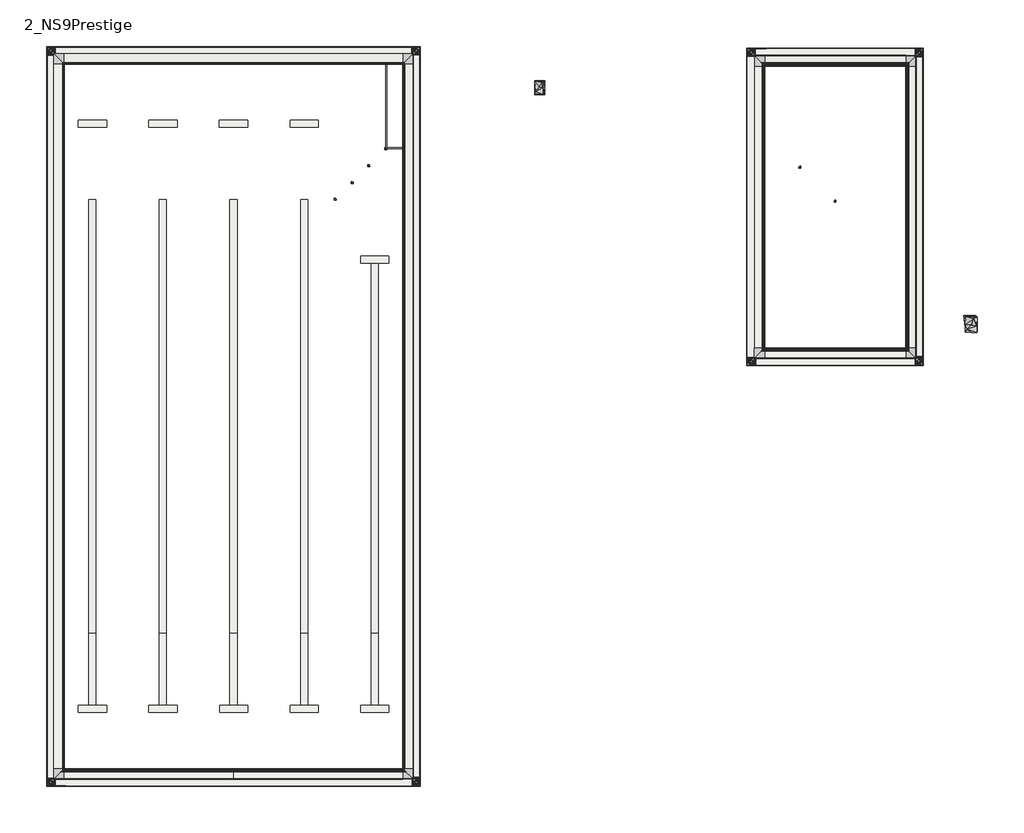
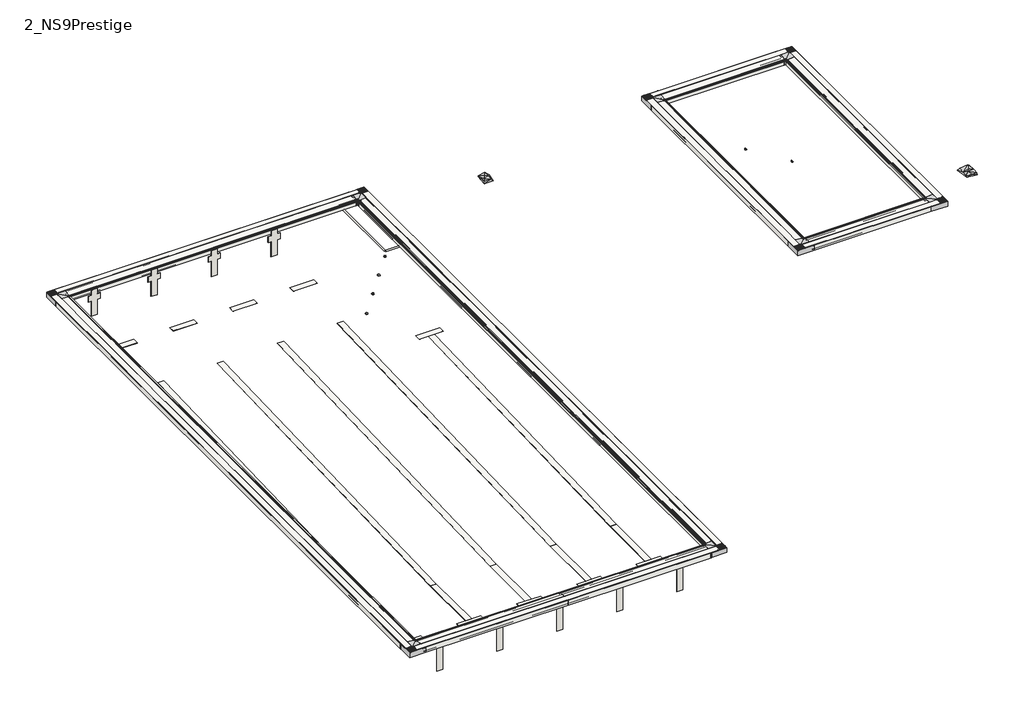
# One storey: 41 slabs, 38 proxies, 2 geographic elements, 2 walls.
"""IFC4 building model written with IfcOpenShell, lengths in millimetres."""

from ifc_helpers import new_model, si_unit, frame, origin, place, context, project, spatial, polyline, outline, extrude, transform, mapped, element, save
from components import generic_models_6b054df1, generic_models_ccc31185, generic_models_78dfe14b, generic_models_e9a23e22, pieza_r5i_aqua_blanco_anti_slip_38d46c03, pieza_r5i_aqua_blanco_anti_slip_8b49d6c0, rejilla_245_e2_blanco_63b6c073, enscape_assetdefinition_throw_03_enscape_assetdefinition_2d4c1df4, enscape_assetdefinition_throw_enscape_assetdefinition_throw_fa2a812f, slab_ae715e0f, slab_47887b1a, slab_0164f3d5, slab_a36d192f, slab_547aef0b, slab_949a5b68, slab_f1eb9f66, slab_3115b348, slab_cda4063a, slab_1b43aec6, bloque_rs_911_a8a97c0f, bloque_rs_911_215bbb40, bloque_rs_911_f4706125, bloque_rs_911_57cfa048, bloque_rs_911_2212c182, bloque_rs_911_3a2023d3, bloque_rs_911_71783845, bloque_rs_911_7a120cf1, bloque_rs_911_55d283f2, pieza_r49_aqua_blanco_anti_slip_135d777d, pieza_r49_aqua_blanco_anti_slip_3c1201e6, pieza_r49_aqua_blanco_anti_slip_20b8c3bb, pieza_r49_aqua_blanco_anti_slip_6e17b325, pieza_r49_aqua_blanco_anti_slip_990b0548, pieza_r49_aqua_blanco_anti_slip_dcf15e24, pieza_r49_aqua_blanco_anti_slip_00d05688, pieza_r49_aqua_blanco_anti_slip_cb5288bd, pieza_r49_aqua_blanco_anti_slip_4dea29a0, rejilla_245_r2_blanco_be0b8a0c, rejilla_245_r2_blanco_33e8b5a1, rejilla_245_r2_blanco_007aff3b, rejilla_245_r2_blanco_432fa08c, rejilla_245_r2_blanco_9034627d

model = new_model("IFC4")

# Units and contexts
model_context = context("Model", 3, world=origin())
ifc_project = project(units=[si_unit("LENGTHUNIT", "METRE", prefix="MILLI")], contexts=[model_context])

# Site, building, storey
site = spatial("IfcSite", under=ifc_project)
building = spatial("IfcBuilding", under=site)
storey = spatial("IfcBuildingStorey", under=building, Name="2_NS9Prestige", Elevation=-245.0)

# Proxies
placement = place(None, origin())
generic_models_shape = generic_models_6b054df1(model_context)
element("IfcBuildingElementProxy", 1, Name="ROSA GRES_RS 911 Esquina Ángulo Interior : Bloque RS 911_Esquina Ángulo Interior", ObjectType="ROSA GRES_RS 911 Esquina Ángulo Interior : Bloque RS 911_Esquina Ángulo Interior", at=placement, inside=storey, context=model_context, shape_type="MappedRepresentation", body=[
    mapped(generic_models_shape, transform((-6320.9163923, 24837.1630021, -228.3), x_axis=(0.0, 1.0, 0.0), y_axis=(-1.0, 0.0, 0.0), z_axis=(0.0, 0.0, 1.0))),
])
element("IfcBuildingElementProxy", 2, Name="ROSA GRES_RS 911 Esquina Ángulo Interior : Bloque RS 911_Esquina Ángulo Interior", ObjectType="ROSA GRES_RS 911 Esquina Ángulo Interior : Bloque RS 911_Esquina Ángulo Interior", at=placement, inside=storey, context=model_context, shape_type="MappedRepresentation", body=[
    mapped(generic_models_shape, transform((5679.7677212, 24836.0564347, -228.3), x_axis=(1.0, 0.0, 0.0), y_axis=(0.0, 1.0, 0.0), z_axis=(0.0, 0.0, 1.0))),
])
element("IfcBuildingElementProxy", 3, Name="ROSA GRES_RS 911 Esquina Ángulo Interior : Bloque RS 911_Esquina Ángulo Interior", ObjectType="ROSA GRES_RS 911 Esquina Ángulo Interior : Bloque RS 911_Esquina Ángulo Interior", at=placement, inside=storey, context=model_context, shape_type="MappedRepresentation", body=[
    mapped(generic_models_shape, transform((5680.8018347, -150.6276788, -228.3), x_axis=(0.0, -1.0, 0.0), y_axis=(1.0, 0.0, 0.0), z_axis=(0.0, 0.0, 1.0))),
])
element("IfcBuildingElementProxy", 4, Name="ROSA GRES_RS 911 Esquina Ángulo Interior : Bloque RS 911_Esquina Ángulo Interior", ObjectType="ROSA GRES_RS 911 Esquina Ángulo Interior : Bloque RS 911_Esquina Ángulo Interior", at=placement, inside=storey, context=model_context, shape_type="MappedRepresentation", body=[
    mapped(generic_models_shape, transform((-6320.9526193, -160.5914519, -228.3), x_axis=(-1.0, 0.0, 0.0), y_axis=(0.0, -1.0, 0.0), z_axis=(0.0, 0.0, 1.0))),
])
element("IfcBuildingElementProxy", 5, Name="ROSA GRES_RS 911 Esquina Ángulo Interior : Bloque RS 911_Esquina Ángulo Interior", ObjectType="ROSA GRES_RS 911 Esquina Ángulo Interior : Bloque RS 911_Esquina Ángulo Interior", at=placement, inside=storey, context=model_context, shape_type="MappedRepresentation", body=[
    mapped(generic_models_shape, transform((18513.4747739, 14772.4469485, -228.3), x_axis=(-1.0, 0.0, 0.0), y_axis=(0.0, -1.0, 0.0), z_axis=(0.0, 0.0, 1.0))),
])
element("IfcBuildingElementProxy", 6, Name="ROSA GRES_RS 911 Esquina Ángulo Interior : Bloque RS 911_Esquina Ángulo Interior", ObjectType="ROSA GRES_RS 911 Esquina Ángulo Interior : Bloque RS 911_Esquina Ángulo Interior", at=placement, inside=storey, context=model_context, shape_type="MappedRepresentation", body=[
    mapped(generic_models_shape, transform((23513.3542278, 14772.4107216, -228.3), x_axis=(0.0, -1.0, 0.0), y_axis=(1.0, 0.0, 0.0), z_axis=(0.0, 0.0, 1.0))),
])
element("IfcBuildingElementProxy", 7, Name="ROSA GRES_RS 911 Esquina Ángulo Interior : Bloque RS 911_Esquina Ángulo Interior", ObjectType="ROSA GRES_RS 911 Esquina Ángulo Interior : Bloque RS 911_Esquina Ángulo Interior", at=placement, inside=storey, context=model_context, shape_type="MappedRepresentation", body=[
    mapped(generic_models_shape, transform((23514.6404548, 24774.1651756, -228.3), x_axis=(1.0, 0.0, 0.0), y_axis=(0.0, 1.0, 0.0), z_axis=(0.0, 0.0, 1.0))),
])
element("IfcBuildingElementProxy", 8, Name="ROSA GRES_RS 911 Esquina Ángulo Interior : Bloque RS 911_Esquina Ángulo Interior", ObjectType="ROSA GRES_RS 911 Esquina Ángulo Interior : Bloque RS 911_Esquina Ángulo Interior", at=placement, inside=storey, context=model_context, shape_type="MappedRepresentation", body=[
    mapped(generic_models_shape, transform((18508.5110008, 24781.7014025, -228.3), x_axis=(0.0, 1.0, 0.0), y_axis=(-1.0, 0.0, 0.0), z_axis=(0.0, 0.0, 1.0))),
])
generic_models_2_shape = generic_models_ccc31185(model_context)
element("IfcBuildingElementProxy", 9, Name="ROSA GRES_089 : Pieza 089_Aqua_Plomo_Anti-Slip", ObjectType="ROSA GRES_089 : Pieza 089_Aqua_Plomo_Anti-Slip", at=placement, inside=storey, context=model_context, shape_type="MappedRepresentation", body=[
    mapped(generic_models_2_shape, transform((5680.716378, 24836.3926616, -228.3977837), x_axis=(1.0, 0.0, 0.0), y_axis=(0.0, 1.0, 0.0), z_axis=(0.0, 0.0, 1.0))),
])
element("IfcBuildingElementProxy", 10, Name="ROSA GRES_089 : Pieza 089_Aqua_Plomo_Anti-Slip", ObjectType="ROSA GRES_089 : Pieza 089_Aqua_Plomo_Anti-Slip", at=placement, inside=storey, context=model_context, shape_type="MappedRepresentation", body=[
    mapped(generic_models_2_shape, transform((-6320.0809356, -154.1282468, -228.3977837), x_axis=(-1.0, 0.0, 0.0), y_axis=(0.0, -1.0, 0.0), z_axis=(0.0, 0.0, 1.0))),
])
element("IfcBuildingElementProxy", 11, Name="ROSA GRES_089 : Pieza 089_Aqua_Plomo_Anti-Slip", ObjectType="ROSA GRES_089 : Pieza 089_Aqua_Plomo_Anti-Slip", at=placement, inside=storey, context=model_context, shape_type="MappedRepresentation", body=[
    mapped(generic_models_2_shape, transform((23514.382378, 24772.6426616, -228.3977837), x_axis=(1.0, 0.0, 0.0), y_axis=(0.0, 1.0, 0.0), z_axis=(0.0, 0.0, 1.0))),
])
element("IfcBuildingElementProxy", 12, Name="ROSA GRES_089 : Pieza 089_Aqua_Plomo_Anti-Slip", ObjectType="ROSA GRES_089 : Pieza 089_Aqua_Plomo_Anti-Slip", at=placement, inside=storey, context=model_context, shape_type="MappedRepresentation", body=[
    mapped(generic_models_2_shape, transform((18514.5288157, 14773.5112935, -228.3977837), x_axis=(-1.0, 0.0, 0.0), y_axis=(0.0, -1.0, 0.0), z_axis=(0.0, 0.0, 1.0))),
])
generic_models_3_shape = generic_models_78dfe14b(model_context)
element("IfcBuildingElementProxy", 13, Name="ROSA GRES_089 : Pieza 089_Aqua_Plomo_Anti-Slip", ObjectType="ROSA GRES_089 : Pieza 089_Aqua_Plomo_Anti-Slip", at=placement, inside=storey, context=model_context, shape_type="MappedRepresentation", body=[
    mapped(generic_models_3_shape, transform((-6320.0809356, 24836.3926616, -228.3977837), x_axis=(-1.0, 0.0, 0.0), y_axis=(0.0, -1.0, 0.0), z_axis=(0.0, 0.0, 1.0))),
])
element("IfcBuildingElementProxy", 14, Name="ROSA GRES_089 : Pieza 089_Aqua_Plomo_Anti-Slip", ObjectType="ROSA GRES_089 : Pieza 089_Aqua_Plomo_Anti-Slip", at=placement, inside=storey, context=model_context, shape_type="MappedRepresentation", body=[
    mapped(generic_models_3_shape, transform((5680.716378, -154.1282468, -228.3977837), x_axis=(1.0, 0.0, 0.0), y_axis=(0.0, 1.0, 0.0), z_axis=(0.0, 0.0, 1.0))),
])
element("IfcBuildingElementProxy", 15, Name="ROSA GRES_089 : Pieza 089_Aqua_Plomo_Anti-Slip", ObjectType="ROSA GRES_089 : Pieza 089_Aqua_Plomo_Anti-Slip", at=placement, inside=storey, context=model_context, shape_type="MappedRepresentation", body=[
    mapped(generic_models_3_shape, transform((18514.5288157, 24772.6426616, -228.3977837), x_axis=(-1.0, 0.0, 0.0), y_axis=(0.0, -1.0, 0.0), z_axis=(0.0, 0.0, 1.0))),
])
element("IfcBuildingElementProxy", 16, Name="ROSA GRES_089 : Pieza 089_Aqua_Plomo_Anti-Slip", ObjectType="ROSA GRES_089 : Pieza 089_Aqua_Plomo_Anti-Slip", at=placement, inside=storey, context=model_context, shape_type="MappedRepresentation", body=[
    mapped(generic_models_3_shape, transform((23514.382378, 14773.5112935, -228.3977837), x_axis=(1.0, 0.0, 0.0), y_axis=(0.0, 1.0, 0.0), z_axis=(0.0, 0.0, 1.0))),
])
generic_models_4_shape = generic_models_e9a23e22(model_context)
element("IfcBuildingElementProxy", 17, Name="ROSA GRES_116 : Pieza 116_Aqua_Plomo_Liso", ObjectType="ROSA GRES_116 : Pieza 116_Aqua_Plomo_Liso", at=placement, inside=storey, context=model_context, shape_type="MappedRepresentation", body=[
    mapped(generic_models_4_shape, transform((3320.0677212, 20076.3926616, -1259.95975), x_axis=(0.0, -1.0, 0.0), y_axis=(1.0, 0.0, 0.0), z_axis=(0.0, 0.0, 1.0))),
])
element("IfcBuildingElementProxy", 18, Name="ROSA GRES_116 : Pieza 116_Aqua_Plomo_Liso", ObjectType="ROSA GRES_116 : Pieza 116_Aqua_Plomo_Liso", at=placement, inside=storey, context=model_context, shape_type="MappedRepresentation", body=[
    mapped(generic_models_4_shape, transform((4520.0677212, 21275.5274858, -710.0), x_axis=(0.0, -1.0, 0.0), y_axis=(1.0, 0.0, 0.0), z_axis=(0.0, 0.0, 1.0))),
])
element("IfcBuildingElementProxy", 19, Name="ROSA GRES_116 : Pieza 116_Aqua_Plomo_Liso", ObjectType="ROSA GRES_116 : Pieza 116_Aqua_Plomo_Liso", at=placement, inside=storey, context=model_context, shape_type="MappedRepresentation", body=[
    mapped(generic_models_4_shape, transform((3921.2009319, 20676.3926616, -960.0), x_axis=(0.0, -1.0, 0.0), y_axis=(1.0, 0.0, 0.0), z_axis=(0.0, 0.0, 1.0))),
])
element("IfcBuildingElementProxy", 20, Name="ROSA GRES_116 : Pieza 116_Aqua_Plomo_Liso", ObjectType="ROSA GRES_116 : Pieza 116_Aqua_Plomo_Liso", at=placement, inside=storey, context=model_context, shape_type="MappedRepresentation", body=[
    mapped(generic_models_4_shape, transform((5120.1927212, 21876.290177, -460.0), x_axis=(0.0, -1.0, 0.0), y_axis=(1.0, 0.0, 0.0), z_axis=(0.0, 0.0, 1.0))),
])
element("IfcBuildingElementProxy", 21, Name="ROSA GRES_116 : Pieza 116_Aqua_Plomo_Liso", ObjectType="ROSA GRES_116 : Pieza 116_Aqua_Plomo_Liso", at=placement, inside=storey, context=model_context, shape_type="MappedRepresentation", body=[
    mapped(generic_models_4_shape, transform((19723.8701143, 21213.4310621, -460.0), x_axis=(1.0, 0.0, 0.0), y_axis=(0.0, 1.0, 0.0), z_axis=(0.0, 0.0, 1.0))),
])
element("IfcBuildingElementProxy", 22, Name="ROSA GRES_116 : Pieza 116_Aqua_Plomo_Liso", ObjectType="ROSA GRES_116 : Pieza 116_Aqua_Plomo_Liso", at=placement, inside=storey, context=model_context, shape_type="MappedRepresentation", body=[
    mapped(generic_models_4_shape, transform((20973.8701143, 20013.4310621, -710.0), x_axis=(1.0, 0.0, 0.0), y_axis=(0.0, 1.0, 0.0), z_axis=(0.0, 0.0, 1.0))),
])
pieza_r5i_aqua_blanco_anti_slip_shape = pieza_r5i_aqua_blanco_anti_slip_38d46c03(model_context)
element("IfcBuildingElementProxy", 23, Name="ROSA GRES_R5I : Pieza R5I_Aqua_Blanco_Anti-Slip", ObjectType="ROSA GRES_R5I : Pieza R5I_Aqua_Blanco_Anti-Slip", at=placement, inside=storey, context=model_context, shape_type="MappedRepresentation", body=[
    mapped(pieza_r5i_aqua_blanco_anti_slip_shape, transform((-6319.9322788, 24836.3926616, -228.3), x_axis=(0.0, 1.0, 0.0), y_axis=(-1.0, 0.0, 0.0), z_axis=(0.0, 0.0, 1.0))),
])
element("IfcBuildingElementProxy", 24, Name="ROSA GRES_R5I : Pieza R5I_Aqua_Blanco_Anti-Slip", ObjectType="ROSA GRES_R5I : Pieza R5I_Aqua_Blanco_Anti-Slip", at=placement, inside=storey, context=model_context, shape_type="MappedRepresentation", body=[
    mapped(pieza_r5i_aqua_blanco_anti_slip_shape, transform((5681.8177212, -154.6549008, -228.3), x_axis=(0.0, -1.0, 0.0), y_axis=(1.0, 0.0, 0.0), z_axis=(0.0, 0.0, 1.0))),
])
element("IfcBuildingElementProxy", 25, Name="ROSA GRES_R5I : Pieza R5I_Aqua_Blanco_Anti-Slip", ObjectType="ROSA GRES_R5I : Pieza R5I_Aqua_Blanco_Anti-Slip", at=placement, inside=storey, context=model_context, shape_type="MappedRepresentation", body=[
    mapped(pieza_r5i_aqua_blanco_anti_slip_shape, transform((18513.2594725, 24773.8926616, -228.3), x_axis=(0.0, 1.0, 0.0), y_axis=(-1.0, 0.0, 0.0), z_axis=(0.0, 0.0, 1.0))),
])
element("IfcBuildingElementProxy", 26, Name="ROSA GRES_R5I : Pieza R5I_Aqua_Blanco_Anti-Slip", ObjectType="ROSA GRES_R5I : Pieza R5I_Aqua_Blanco_Anti-Slip", at=placement, inside=storey, context=model_context, shape_type="MappedRepresentation", body=[
    mapped(pieza_r5i_aqua_blanco_anti_slip_shape, transform((23514.4807561, 14772.9694625, -228.3), x_axis=(0.0, -1.0, 0.0), y_axis=(1.0, 0.0, 0.0), z_axis=(0.0, 0.0, 1.0))),
])
pieza_r5i_aqua_blanco_anti_slip_2_shape = pieza_r5i_aqua_blanco_anti_slip_8b49d6c0(model_context)
element("IfcBuildingElementProxy", 27, Name="ROSA GRES_R5I : Pieza R5I_Aqua_Blanco_Anti-Slip", ObjectType="ROSA GRES_R5I : Pieza R5I_Aqua_Blanco_Anti-Slip", at=placement, inside=storey, context=model_context, shape_type="MappedRepresentation", body=[
    mapped(pieza_r5i_aqua_blanco_anti_slip_2_shape, transform((5681.8177212, 24836.3926616, -228.3), x_axis=(0.0, 1.0, 0.0), y_axis=(-1.0, 0.0, 0.0), z_axis=(0.0, 0.0, 1.0))),
])
element("IfcBuildingElementProxy", 28, Name="ROSA GRES_R5I : Pieza R5I_Aqua_Blanco_Anti-Slip", ObjectType="ROSA GRES_R5I : Pieza R5I_Aqua_Blanco_Anti-Slip", at=placement, inside=storey, context=model_context, shape_type="MappedRepresentation", body=[
    mapped(pieza_r5i_aqua_blanco_anti_slip_2_shape, transform((-6319.9322788, -154.6549008, -228.3), x_axis=(0.0, -1.0, 0.0), y_axis=(1.0, 0.0, 0.0), z_axis=(0.0, 0.0, 1.0))),
])
element("IfcBuildingElementProxy", 29, Name="ROSA GRES_R5I : Pieza R5I_Aqua_Blanco_Anti-Slip", ObjectType="ROSA GRES_R5I : Pieza R5I_Aqua_Blanco_Anti-Slip", at=placement, inside=storey, context=model_context, shape_type="MappedRepresentation", body=[
    mapped(pieza_r5i_aqua_blanco_anti_slip_2_shape, transform((23514.4807561, 24773.8926616, -228.3), x_axis=(0.0, 1.0, 0.0), y_axis=(-1.0, 0.0, 0.0), z_axis=(0.0, 0.0, 1.0))),
])
element("IfcBuildingElementProxy", 30, Name="ROSA GRES_R5I : Pieza R5I_Aqua_Blanco_Anti-Slip", ObjectType="ROSA GRES_R5I : Pieza R5I_Aqua_Blanco_Anti-Slip", at=placement, inside=storey, context=model_context, shape_type="MappedRepresentation", body=[
    mapped(pieza_r5i_aqua_blanco_anti_slip_2_shape, transform((18513.2594725, 14772.9694625, -228.3), x_axis=(0.0, -1.0, 0.0), y_axis=(1.0, 0.0, 0.0), z_axis=(0.0, 0.0, 1.0))),
])
rejilla_245_e2_blanco_shape = rejilla_245_e2_blanco_63b6c073(model_context)
element("IfcBuildingElementProxy", 31, Name="ROSA GRES_245 E2 : Rejilla 245 E2_Blanco", ObjectType="ROSA GRES_245 E2 : Rejilla 245 E2_Blanco", at=placement, inside=storey, context=model_context, shape_type="MappedRepresentation", body=[
    mapped(rejilla_245_e2_blanco_shape, transform((23877.1904548, 14408.6107216, -228.3), x_axis=(0.0, -1.0, 0.0), y_axis=(1.0, 0.0, 0.0), z_axis=(0.0, 0.0, 1.0))),
])
element("IfcBuildingElementProxy", 32, Name="ROSA GRES_245 E2 : Rejilla 245 E2_Blanco", ObjectType="ROSA GRES_245 E2 : Rejilla 245 E2_Blanco", at=placement, inside=storey, context=model_context, shape_type="MappedRepresentation", body=[
    mapped(rejilla_245_e2_blanco_shape, transform((18147.7099949, 14407.4199848, -228.3), x_axis=(-1.0, 0.0, 0.0), y_axis=(0.0, -1.0, 0.0), z_axis=(0.0, 0.0, 1.0))),
])
element("IfcBuildingElementProxy", 33, Name="ROSA GRES_245 E2 : Rejilla 245 E2_Blanco", ObjectType="ROSA GRES_245 E2 : Rejilla 245 E2_Blanco", at=placement, inside=storey, context=model_context, shape_type="MappedRepresentation", body=[
    mapped(rejilla_245_e2_blanco_shape, transform((18144.6747739, 25145.5014025, -228.3), x_axis=(0.0, 1.0, 0.0), y_axis=(-1.0, 0.0, 0.0), z_axis=(0.0, 0.0, 1.0))),
])
element("IfcBuildingElementProxy", 34, Name="ROSA GRES_245 E2 : Rejilla 245 E2_Blanco", ObjectType="ROSA GRES_245 E2 : Rejilla 245 E2_Blanco", at=placement, inside=storey, context=model_context, shape_type="MappedRepresentation", body=[
    mapped(rejilla_245_e2_blanco_shape, transform((23878.4404548, 25138.0014025, -228.3), x_axis=(1.0, 0.0, 0.0), y_axis=(0.0, 1.0, 0.0), z_axis=(0.0, 0.0, 1.0))),
])
element("IfcBuildingElementProxy", 35, Name="ROSA GRES_245 E2 : Rejilla 245 E2_Blanco", ObjectType="ROSA GRES_245 E2 : Rejilla 245 E2_Blanco", at=placement, inside=storey, context=model_context, shape_type="MappedRepresentation", body=[
    mapped(rejilla_245_e2_blanco_shape, transform((6043.5677212, 25199.8926616, -228.3), x_axis=(1.0, 0.0, 0.0), y_axis=(0.0, 1.0, 0.0), z_axis=(0.0, 0.0, 1.0))),
])
element("IfcBuildingElementProxy", 36, Name="ROSA GRES_245 E2 : Rejilla 245 E2_Blanco", ObjectType="ROSA GRES_245 E2 : Rejilla 245 E2_Blanco", at=placement, inside=storey, context=model_context, shape_type="MappedRepresentation", body=[
    mapped(rejilla_245_e2_blanco_shape, transform((-6684.7526193, 25200.9630021, -228.3), x_axis=(0.0, 1.0, 0.0), y_axis=(-1.0, 0.0, 0.0), z_axis=(0.0, 0.0, 1.0))),
])
element("IfcBuildingElementProxy", 37, Name="ROSA GRES_245 E2 : Rejilla 245 E2_Blanco", ObjectType="ROSA GRES_245 E2 : Rejilla 245 E2_Blanco", at=placement, inside=storey, context=model_context, shape_type="MappedRepresentation", body=[
    mapped(rejilla_245_e2_blanco_shape, transform((-6684.7526193, -520.2043784, -228.3), x_axis=(-1.0, 0.0, 0.0), y_axis=(0.0, -1.0, 0.0), z_axis=(0.0, 0.0, 1.0))),
])
element("IfcBuildingElementProxy", 38, Name="ROSA GRES_245 E2 : Rejilla 245 E2_Blanco", ObjectType="ROSA GRES_245 E2 : Rejilla 245 E2_Blanco", at=placement, inside=storey, context=model_context, shape_type="MappedRepresentation", body=[
    mapped(rejilla_245_e2_blanco_shape, transform((6047.3671988, -520.2043784, -228.3039064), x_axis=(0.0, -1.0, 0.0), y_axis=(1.0, 0.0, 0.0), z_axis=(0.0, 0.0, 1.0))),
])

# Geographic elements
enscape_assetdefinition_throw_03_enscape_assetdefinition_shape = enscape_assetdefinition_throw_03_enscape_assetdefinition_2d4c1df4(model_context)
element("IfcGeographicElement", 39, ObjectType="Enscape AssetDefinition - Throw 03 : Enscape AssetDefinition - Throw 03", at=placement, inside=storey, context=model_context, shape_type="MappedRepresentation", body=[
    mapped(enscape_assetdefinition_throw_03_enscape_assetdefinition_shape, transform((25813.8701143, 15613.4310621, -245.0), x_axis=(1.0, 0.0, 0.0), y_axis=(0.0, 1.0, 0.0), z_axis=(0.0, 0.0, 1.0))),
])
enscape_assetdefinition_throw_enscape_assetdefinition_throw_shape = enscape_assetdefinition_throw_enscape_assetdefinition_throw_fa2a812f(model_context)
element("IfcGeographicElement", 40, ObjectType="Enscape AssetDefinition - Throw : Enscape AssetDefinition - Throw", at=placement, inside=storey, context=model_context, shape_type="MappedRepresentation", body=[
    mapped(enscape_assetdefinition_throw_enscape_assetdefinition_throw_shape, transform((10529.0677212, 24016.3926616, -245.0), x_axis=(1.0, 0.0, 0.0), y_axis=(0.0, 1.0, 0.0), z_axis=(0.0, 0.0, 1.0))),
])

# Slabs
element("IfcSlab", 41, ObjectType="Pieza 244 G1_Patrón Recto_Aqua_Plomo_Anti-Slip", at=placement, inside=storey, context=model_context, shape_type="SweptSolid", body=[
    extrude(outline(polyline([(-4819.9322788, 22845.3926616), (-4819.9322788, 22595.3926616), (-5819.9322788, 22595.3926616), (-5819.9322788, 22845.3926616), (-4819.9322788, 22845.3926616)])), frame((0.0, 0.0, -1259.0), z_axis=(0.0, 0.0, 1.0), x_axis=(1.0, 0.0, 0.0)), (0.0, 0.0, 1.0), 9.0),
    extrude(outline(polyline([(-2319.9322788, 22845.3926616), (-2319.9322788, 22595.3926616), (-3319.9322788, 22595.3926616), (-3319.9322788, 22845.3926616), (-2319.9322788, 22845.3926616)])), frame((0.0, 0.0, -1259.0), z_axis=(0.0, 0.0, 1.0), x_axis=(1.0, 0.0, 0.0)), (0.0, 0.0, 1.0), 9.0),
    extrude(outline(polyline([(189.0677212, 22845.3926616), (189.0677212, 22595.3926616), (-819.9322788, 22595.3926616), (-819.9322788, 22845.3926616), (189.0677212, 22845.3926616)])), frame((0.0, 0.0, -1259.0), z_axis=(0.0, 0.0, 1.0), x_axis=(1.0, 0.0, 0.0)), (0.0, 0.0, 1.0), 9.0),
    extrude(outline(polyline([(2689.0677212, 22845.3926616), (2689.0677212, 22595.3926616), (1689.0677212, 22595.3926616), (1689.0677212, 22845.3926616), (2689.0677212, 22845.3926616)])), frame((0.0, 0.0, -1259.0), z_axis=(0.0, 0.0, 1.0), x_axis=(1.0, 0.0, 0.0)), (0.0, 0.0, 1.0), 9.0),
])
element("IfcSlab", 42, ObjectType="Pieza 244 G1_Patrón Recto_Aqua_Plomo_Anti-Slip", at=placement, inside=storey, context=model_context, shape_type="SweptSolid", body=[
    extrude(outline(polyline([(20036.3926616, -1259.0047424), (4636.3926616, -1759.0047424), (4636.3926616, -1750.0), (20036.3926616, -1250.0), (20036.3926616, -1259.0047424)])), frame((-5444.9322788, 0.0, 0.0), z_axis=(1.0, 0.0, 0.0), x_axis=(0.0, 1.0, 0.0)), (0.0, 0.0, 1.0), 250.0),
    extrude(outline(polyline([(20036.3926616, -1259.0047424), (4636.3926616, -1759.0047424), (4636.3926616, -1750.0), (20036.3926616, -1250.0), (20036.3926616, -1259.0047424)])), frame((-2944.9322788, 0.0, 0.0), z_axis=(1.0, 0.0, 0.0), x_axis=(0.0, 1.0, 0.0)), (0.0, 0.0, 1.0), 250.0),
    extrude(outline(polyline([(20036.3926616, -1259.0047424), (4636.3926616, -1759.0047424), (4636.3926616, -1750.0), (20036.3926616, -1250.0), (20036.3926616, -1259.0047424)])), frame((-444.9322788, 0.0, 0.0), z_axis=(1.0, 0.0, 0.0), x_axis=(0.0, 1.0, 0.0)), (0.0, 0.0, 1.0), 259.0),
    extrude(outline(polyline([(20036.3926616, -1259.0047424), (4636.3926616, -1759.0047424), (4636.3926616, -1750.0), (20036.3926616, -1250.0), (20036.3926616, -1259.0047424)])), frame((2064.0677212, 0.0, 0.0), z_axis=(1.0, 0.0, 0.0), x_axis=(0.0, 1.0, 0.0)), (0.0, 0.0, 1.0), 250.0),
    extrude(outline(polyline([(17786.3926616, -1332.0566904), (4636.3926616, -1759.0047424), (4636.3926616, -1750.0), (17786.3926616, -1323.0519481), (17786.3926616, -1332.0566904)])), frame((4564.0677212, 0.0, 0.0), z_axis=(1.0, 0.0, 0.0), x_axis=(0.0, 1.0, 0.0)), (0.0, 0.0, 1.0), 250.0),
])
element("IfcSlab", 43, ObjectType="Pieza 244 G1_Patrón Recto_Aqua_Plomo_Anti-Slip", at=placement, inside=storey, context=model_context, shape_type="SweptSolid", body=[
    extrude(outline(polyline([(5189.0677212, 18036.3926616), (5189.0677212, 17786.3926616), (4189.0677212, 17786.3926616), (4189.0677212, 18036.3926616), (5189.0677212, 18036.3926616)])), frame((0.0, 0.0, -1329.0), z_axis=(0.0, 0.0, 1.0), x_axis=(1.0, 0.0, 0.0)), (0.0, 0.0, 1.0), 9.0),
])
element("IfcSlab", 44, ObjectType="Pieza 244 G1_Patrón Recto_Aqua_Plomo_Anti-Slip", at=placement, inside=storey, context=model_context, shape_type="SweptSolid", body=[
    extrude(outline(polyline([(-5444.9322788, 4636.3926616), (-5194.9322788, 4636.3926616), (-5194.9322788, 2095.3926616), (-5444.9322788, 2095.3926616), (-5444.9322788, 4636.3926616)])), frame((0.0, 0.0, -1759.0), z_axis=(0.0, 0.0, 1.0), x_axis=(1.0, 0.0, 0.0)), (0.0, 0.0, 1.0), 9.0),
    extrude(outline(polyline([(-2944.9322788, 4636.3926616), (-2694.9322788, 4636.3926616), (-2694.9322788, 2095.3926616), (-2944.9322788, 2095.3926616), (-2944.9322788, 4636.3926616)])), frame((0.0, 0.0, -1759.0), z_axis=(0.0, 0.0, 1.0), x_axis=(1.0, 0.0, 0.0)), (0.0, 0.0, 1.0), 9.0),
    extrude(outline(polyline([(-444.9322788, 4636.3926616), (-185.9322788, 4636.3926616), (-185.9322788, 2095.3926616), (-444.9322788, 2095.3926616), (-444.9322788, 4636.3926616)])), frame((0.0, 0.0, -1759.0), z_axis=(0.0, 0.0, 1.0), x_axis=(1.0, 0.0, 0.0)), (0.0, 0.0, 1.0), 9.0),
    extrude(outline(polyline([(2064.0677212, 4636.3926616), (2314.0677212, 4636.3926616), (2314.0677212, 2095.3926616), (2064.0677212, 2095.3926616), (2064.0677212, 4636.3926616)])), frame((0.0, 0.0, -1759.0), z_axis=(0.0, 0.0, 1.0), x_axis=(1.0, 0.0, 0.0)), (0.0, 0.0, 1.0), 9.0),
    extrude(outline(polyline([(4564.0677212, 4636.3926616), (4814.0677212, 4636.3926616), (4814.0677212, 2095.3926616), (4564.0677212, 2095.3926616), (4564.0677212, 4636.3926616)])), frame((0.0, 0.0, -1759.0), z_axis=(0.0, 0.0, 1.0), x_axis=(1.0, 0.0, 0.0)), (0.0, 0.0, 1.0), 9.0),
])
element("IfcSlab", 45, ObjectType="Pieza 244 G1_Patrón Recto_Aqua_Plomo_Anti-Slip", at=placement, inside=storey, context=model_context, shape_type="SweptSolid", body=[
    extrude(outline(polyline([(-4819.9322788, 2095.3926616), (-4819.9322788, 1845.3926616), (-5819.9322788, 1845.3926616), (-5819.9322788, 2095.3926616), (-4819.9322788, 2095.3926616)])), frame((0.0, 0.0, -1759.0), z_axis=(0.0, 0.0, 1.0), x_axis=(1.0, 0.0, 0.0)), (0.0, 0.0, 1.0), 9.0),
    extrude(outline(polyline([(-2319.9322788, 2095.3926616), (-2319.9322788, 1845.3926616), (-3319.9322788, 1845.3926616), (-3319.9322788, 2095.3926616), (-2319.9322788, 2095.3926616)])), frame((0.0, 0.0, -1759.0), z_axis=(0.0, 0.0, 1.0), x_axis=(1.0, 0.0, 0.0)), (0.0, 0.0, 1.0), 9.0),
    extrude(outline(polyline([(189.0677212, 2095.3926616), (189.0677212, 1845.3926616), (-810.9322788, 1845.3926616), (-810.9322788, 2095.3926616), (189.0677212, 2095.3926616)])), frame((0.0, 0.0, -1759.0), z_axis=(0.0, 0.0, 1.0), x_axis=(1.0, 0.0, 0.0)), (0.0, 0.0, 1.0), 9.0),
    extrude(outline(polyline([(2689.0677212, 2095.3926616), (2689.0677212, 1845.3926616), (1689.0677212, 1845.3926616), (1689.0677212, 2095.3926616), (2689.0677212, 2095.3926616)])), frame((0.0, 0.0, -1759.0), z_axis=(0.0, 0.0, 1.0), x_axis=(1.0, 0.0, 0.0)), (0.0, 0.0, 1.0), 9.0),
    extrude(outline(polyline([(5189.0677212, 2095.3926616), (5189.0677212, 1845.3926616), (4189.0677212, 1845.3926616), (4189.0677212, 2095.3926616), (5189.0677212, 2095.3926616)])), frame((0.0, 0.0, -1759.0), z_axis=(0.0, 0.0, 1.0), x_axis=(1.0, 0.0, 0.0)), (0.0, 0.0, 1.0), 9.0),
])
slab_shape = slab_ae715e0f(model_context)
element("IfcSlab", 46, ObjectType="ROSA GRES_G49 : Pieza G49_Aqua_Plomo_Anti-Slip", at=placement, inside=storey, context=model_context, shape_type="MappedRepresentation", body=[
    mapped(slab_shape, transform((-6320.1822788, 24836.3926616, -229.0), x_axis=(1.0, 0.0, 0.0), y_axis=(0.0, 1.0, 0.0), z_axis=(0.0, 0.0, 1.0))),
])
slab_2_shape = slab_47887b1a(model_context)
element("IfcSlab", 47, ObjectType="ROSA GRES_G49 : Pieza G49_Aqua_Plomo_Anti-Slip", at=placement, inside=storey, context=model_context, shape_type="MappedRepresentation", body=[
    mapped(slab_2_shape, transform((-6320.1822788, 24836.3926616, -229.0), x_axis=(0.0, -1.0, 0.0), y_axis=(1.0, 0.0, 0.0), z_axis=(0.0, 0.0, 1.0))),
])
slab_3_shape = slab_0164f3d5(model_context)
element("IfcSlab", 48, ObjectType="ROSA GRES_G49 : Pieza G49_Aqua_Plomo_Anti-Slip", at=placement, inside=storey, context=model_context, shape_type="MappedRepresentation", body=[
    mapped(slab_3_shape, transform((-6320.1822788, -154.8573384, -229.0), x_axis=(1.0, 0.0, 0.0), y_axis=(0.0, 1.0, 0.0), z_axis=(0.0, 0.0, 1.0))),
])
slab_4_shape = slab_a36d192f(model_context)
element("IfcSlab", 49, ObjectType="ROSA GRES_G49 : Pieza G49_Aqua_Plomo_Anti-Slip", at=placement, inside=storey, context=model_context, shape_type="MappedRepresentation", body=[
    mapped(slab_4_shape, transform((5680.0677212, 24836.3926616, -229.0), x_axis=(0.0, -1.0, 0.0), y_axis=(1.0, 0.0, 0.0), z_axis=(0.0, 0.0, 1.0))),
])
slab_5_shape = slab_547aef0b(model_context)
element("IfcSlab", 50, ObjectType="ROSA GRES_G49 : Pieza G49_Aqua_Plomo_Anti-Slip", at=placement, inside=storey, context=model_context, shape_type="MappedRepresentation", body=[
    mapped(slab_5_shape, transform((18514.2451143, 24775.9310621, -228.3), x_axis=(0.0, -1.0, 0.0), y_axis=(1.0, 0.0, 0.0), z_axis=(0.0, 0.0, 1.0))),
])
slab_6_shape = slab_949a5b68(model_context)
element("IfcSlab", 51, ObjectType="ROSA GRES_G49 : Pieza G49_Aqua_Plomo_Anti-Slip", at=placement, inside=storey, context=model_context, shape_type="MappedRepresentation", body=[
    mapped(slab_6_shape, transform((18514.2451143, 14773.1810621, -228.3), x_axis=(1.0, 0.0, 0.0), y_axis=(0.0, 1.0, 0.0), z_axis=(0.0, 0.0, 1.0))),
])
slab_7_shape = slab_f1eb9f66(model_context)
element("IfcSlab", 52, ObjectType="ROSA GRES_G49 : Pieza G49_Aqua_Plomo_Anti-Slip", at=placement, inside=storey, context=model_context, shape_type="MappedRepresentation", body=[
    mapped(slab_7_shape, transform((23513.8701143, 24775.9310621, -228.3), x_axis=(0.0, -1.0, 0.0), y_axis=(1.0, 0.0, 0.0), z_axis=(0.0, 0.0, 1.0))),
])
slab_8_shape = slab_3115b348(model_context)
element("IfcSlab", 53, ObjectType="ROSA GRES_G49 : Pieza G49_Aqua_Plomo_Anti-Slip", at=placement, inside=storey, context=model_context, shape_type="MappedRepresentation", body=[
    mapped(slab_8_shape, transform((23515.2307561, 24772.4310621, -228.3), x_axis=(-1.0, 0.0, 0.0), y_axis=(0.0, -1.0, 0.0), z_axis=(0.0, 0.0, 1.0))),
])
slab_9_shape = slab_cda4063a(model_context)
element("IfcSlab", 54, ObjectType="ROSA GRES_138 : Pieza 138_Aqua_Plomo_Anti-Slip", at=placement, inside=storey, context=model_context, shape_type="MappedRepresentation", body=[
    mapped(slab_9_shape, transform((5120.0677212, 21876.3926616, -240.0), x_axis=(1.0, 0.0, 0.0), y_axis=(0.0, 0.0, 1.0), z_axis=(0.0, -1.0, 0.0))),
])
slab_10_shape = slab_1b43aec6(model_context)
element("IfcSlab", 55, ObjectType="ROSA GRES_138 : Pieza 138_Aqua_Plomo_Anti-Slip", at=placement, inside=storey, context=model_context, shape_type="MappedRepresentation", body=[
    mapped(slab_10_shape, transform((5120.0677212, 24836.3926616, -240.0), x_axis=(0.0, -1.0, 0.0), y_axis=(0.0, 0.0, 1.0), z_axis=(-1.0, 0.0, 0.0))),
])
bloque_rs_911_shape = bloque_rs_911_a8a97c0f(model_context)
element("IfcSlab", 56, ObjectType="ROSA GRES_RS 911 : Bloque_RS 911", at=placement, inside=storey, context=model_context, shape_type="MappedRepresentation", body=[
    mapped(bloque_rs_911_shape, transform((-6320.1822788, 24836.3926616, -228.3), x_axis=(1.0, 0.0, 0.0), y_axis=(0.0, 1.0, 0.0), z_axis=(0.0, 0.0, 1.0))),
])
bloque_rs_911_2_shape = bloque_rs_911_215bbb40(model_context)
element("IfcSlab", 57, ObjectType="ROSA GRES_RS 911 : Bloque_RS 911", at=placement, inside=storey, context=model_context, shape_type="MappedRepresentation", body=[
    mapped(bloque_rs_911_2_shape, transform((5680.0677212, 24836.3926616, -228.3), x_axis=(0.0, -1.0, 0.0), y_axis=(1.0, 0.0, 0.0), z_axis=(0.0, 0.0, 1.0))),
])
bloque_rs_911_3_shape = bloque_rs_911_f4706125(model_context)
element("IfcSlab", 58, ObjectType="ROSA GRES_RS 911 : Bloque_RS 911", at=placement, inside=storey, context=model_context, shape_type="MappedRepresentation", body=[
    mapped(bloque_rs_911_3_shape, transform((-6320.1822788, 24836.3926616, -228.3), x_axis=(0.0, -1.0, 0.0), y_axis=(1.0, 0.0, 0.0), z_axis=(0.0, 0.0, 1.0))),
])
bloque_rs_911_4_shape = bloque_rs_911_57cfa048(model_context)
element("IfcSlab", 59, ObjectType="ROSA GRES_RS 911 : Bloque_RS 911", at=placement, inside=storey, context=model_context, shape_type="MappedRepresentation", body=[
    mapped(bloque_rs_911_4_shape, transform((-6320.1822788, -154.8573384, -228.3), x_axis=(1.0, 0.0, 0.0), y_axis=(0.0, 1.0, 0.0), z_axis=(0.0, 0.0, 1.0))),
])
bloque_rs_911_5_shape = bloque_rs_911_2212c182(model_context)
element("IfcSlab", 60, ObjectType="ROSA GRES_RS 911 : Bloque_RS 911", at=placement, inside=storey, context=model_context, shape_type="MappedRepresentation", body=[
    mapped(bloque_rs_911_5_shape, transform((-324.4322788, -154.8573384, -228.3), x_axis=(1.0, 0.0, 0.0), y_axis=(0.0, 1.0, 0.0), z_axis=(0.0, 0.0, 1.0))),
])
bloque_rs_911_6_shape = bloque_rs_911_3a2023d3(model_context)
element("IfcSlab", 61, ObjectType="ROSA GRES_RS 911 : Bloque_RS 911", at=placement, inside=storey, context=model_context, shape_type="MappedRepresentation", body=[
    mapped(bloque_rs_911_6_shape, transform((18514.2451143, 24775.9310621, -228.3), x_axis=(1.0, 0.0, 0.0), y_axis=(0.0, 1.0, 0.0), z_axis=(0.0, 0.0, 1.0))),
])
bloque_rs_911_7_shape = bloque_rs_911_71783845(model_context)
element("IfcSlab", 62, ObjectType="ROSA GRES_RS 911 : Bloque_RS 911", at=placement, inside=storey, context=model_context, shape_type="MappedRepresentation", body=[
    mapped(bloque_rs_911_7_shape, transform((23513.8701143, 24775.9310621, -228.3), x_axis=(0.0, -1.0, 0.0), y_axis=(1.0, 0.0, 0.0), z_axis=(0.0, 0.0, 1.0))),
])
bloque_rs_911_8_shape = bloque_rs_911_7a120cf1(model_context)
element("IfcSlab", 63, ObjectType="ROSA GRES_RS 911 : Bloque_RS 911", at=placement, inside=storey, context=model_context, shape_type="MappedRepresentation", body=[
    mapped(bloque_rs_911_8_shape, transform((18514.2451143, 14773.1810621, -228.3), x_axis=(1.0, 0.0, 0.0), y_axis=(0.0, 1.0, 0.0), z_axis=(0.0, 0.0, 1.0))),
])
bloque_rs_911_9_shape = bloque_rs_911_55d283f2(model_context)
element("IfcSlab", 64, ObjectType="ROSA GRES_RS 911 : Bloque_RS 911", at=placement, inside=storey, context=model_context, shape_type="MappedRepresentation", body=[
    mapped(bloque_rs_911_9_shape, transform((18514.2451143, 24775.9310621, -228.3), x_axis=(0.0, -1.0, 0.0), y_axis=(1.0, 0.0, 0.0), z_axis=(0.0, 0.0, 1.0))),
])
pieza_r49_aqua_blanco_anti_slip_shape = pieza_r49_aqua_blanco_anti_slip_135d777d(model_context)
element("IfcSlab", 65, ObjectType="ROSA GRES_R49 : Pieza R49_Aqua_Blanco_Anti-Slip", at=placement, inside=storey, context=model_context, shape_type="MappedRepresentation", body=[
    mapped(pieza_r49_aqua_blanco_anti_slip_shape, transform((-6320.1822788, 24836.3926616, -228.3), x_axis=(0.0, -1.0, 0.0), y_axis=(1.0, 0.0, 0.0), z_axis=(0.0, 0.0, 1.0))),
])
pieza_r49_aqua_blanco_anti_slip_2_shape = pieza_r49_aqua_blanco_anti_slip_3c1201e6(model_context)
element("IfcSlab", 66, ObjectType="ROSA GRES_R49 : Pieza R49_Aqua_Blanco_Anti-Slip", at=placement, inside=storey, context=model_context, shape_type="MappedRepresentation", body=[
    mapped(pieza_r49_aqua_blanco_anti_slip_2_shape, transform((-6320.1822788, -154.8573384, -228.3), x_axis=(1.0, 0.0, 0.0), y_axis=(0.0, 1.0, 0.0), z_axis=(0.0, 0.0, 1.0))),
])
pieza_r49_aqua_blanco_anti_slip_3_shape = pieza_r49_aqua_blanco_anti_slip_20b8c3bb(model_context)
element("IfcSlab", 67, ObjectType="ROSA GRES_R49 : Pieza R49_Aqua_Blanco_Anti-Slip", at=placement, inside=storey, context=model_context, shape_type="MappedRepresentation", body=[
    mapped(pieza_r49_aqua_blanco_anti_slip_3_shape, transform((5680.0677212, -154.8573384, -228.3), x_axis=(-1.0, 0.0, 0.0), y_axis=(0.0, -1.0, 0.0), z_axis=(0.0, 0.0, 1.0))),
])
pieza_r49_aqua_blanco_anti_slip_4_shape = pieza_r49_aqua_blanco_anti_slip_6e17b325(model_context)
element("IfcSlab", 68, ObjectType="ROSA GRES_R49 : Pieza R49_Aqua_Blanco_Anti-Slip", at=placement, inside=storey, context=model_context, shape_type="MappedRepresentation", body=[
    mapped(pieza_r49_aqua_blanco_anti_slip_4_shape, transform((23515.0094725, 24773.8660731, -228.3), x_axis=(-1.0, 0.0, 0.0), y_axis=(0.0, -1.0, 0.0), z_axis=(0.0, 0.0, 1.0))),
])
pieza_r49_aqua_blanco_anti_slip_5_shape = pieza_r49_aqua_blanco_anti_slip_990b0548(model_context)
element("IfcSlab", 69, ObjectType="ROSA GRES_R49 : Pieza R49_Aqua_Blanco_Anti-Slip", at=placement, inside=storey, context=model_context, shape_type="MappedRepresentation", body=[
    mapped(pieza_r49_aqua_blanco_anti_slip_5_shape, transform((18512.5094725, 24773.8660731, -228.3), x_axis=(0.0, -1.0, 0.0), y_axis=(1.0, 0.0, 0.0), z_axis=(0.0, 0.0, 1.0))),
])
pieza_r49_aqua_blanco_anti_slip_6_shape = pieza_r49_aqua_blanco_anti_slip_dcf15e24(model_context)
element("IfcSlab", 70, ObjectType="ROSA GRES_R49 : Pieza R49_Aqua_Blanco_Anti-Slip", at=placement, inside=storey, context=model_context, shape_type="MappedRepresentation", body=[
    mapped(pieza_r49_aqua_blanco_anti_slip_6_shape, transform((23515.2307561, 14772.996051, -228.3), x_axis=(-1.0, 0.0, 0.0), y_axis=(0.0, -1.0, 0.0), z_axis=(0.0, 0.0, 1.0))),
])
pieza_r49_aqua_blanco_anti_slip_7_shape = pieza_r49_aqua_blanco_anti_slip_00d05688(model_context)
element("IfcSlab", 71, ObjectType="ROSA GRES_R49 : Pieza R49_Aqua_Blanco_Anti-Slip", at=placement, inside=storey, context=model_context, shape_type="MappedRepresentation", body=[
    mapped(pieza_r49_aqua_blanco_anti_slip_7_shape, transform((23515.2307561, 24772.4310621, -228.3), x_axis=(0.0, -1.0, 0.0), y_axis=(1.0, 0.0, 0.0), z_axis=(0.0, 0.0, 1.0))),
])
pieza_r49_aqua_blanco_anti_slip_8_shape = pieza_r49_aqua_blanco_anti_slip_cb5288bd(model_context)
element("IfcSlab", 72, ObjectType="ROSA GRES_R49 : Pieza R49_Aqua_Blanco_Anti-Slip", at=placement, inside=storey, context=model_context, shape_type="MappedRepresentation", body=[
    mapped(pieza_r49_aqua_blanco_anti_slip_8_shape, transform((-6319.9322788, 24836.3660731, -228.3), x_axis=(1.0, 0.0, 0.0), y_axis=(0.0, 1.0, 0.0), z_axis=(0.0, 0.0, 1.0))),
])
pieza_r49_aqua_blanco_anti_slip_9_shape = pieza_r49_aqua_blanco_anti_slip_4dea29a0(model_context)
element("IfcSlab", 73, ObjectType="ROSA GRES_R49 : Pieza R49_Aqua_Blanco_Anti-Slip", at=placement, inside=storey, context=model_context, shape_type="MappedRepresentation", body=[
    mapped(pieza_r49_aqua_blanco_anti_slip_9_shape, transform((5681.3177212, 24836.3926616, -228.3), x_axis=(0.0, -1.0, 0.0), y_axis=(1.0, 0.0, 0.0), z_axis=(0.0, 0.0, 1.0))),
])
rejilla_245_r2_blanco_shape = rejilla_245_r2_blanco_be0b8a0c(model_context)
element("IfcSlab", 74, ObjectType="ROSA GRES_245 R2_Blanco : Rejilla 245 R2_Blanco", at=placement, inside=storey, context=model_context, shape_type="MappedRepresentation", body=[
    mapped(rejilla_245_r2_blanco_shape, transform((5995.0677212, -154.6073384, -228.3), x_axis=(-1.0, 0.0, 0.0), y_axis=(0.0, -1.0, 0.0), z_axis=(0.0, 0.0, 1.0))),
])
rejilla_245_r2_blanco_2_shape = rejilla_245_r2_blanco_33e8b5a1(model_context)
element("IfcSlab", 75, ObjectType="ROSA GRES_245 R2_Blanco : Rejilla 245 R2_Blanco", at=placement, inside=storey, context=model_context, shape_type="MappedRepresentation", body=[
    mapped(rejilla_245_r2_blanco_2_shape, transform((5680.0677212, 25151.7245481, -228.3), x_axis=(0.0, -1.0, 0.0), y_axis=(1.0, 0.0, 0.0), z_axis=(0.0, 0.0, 1.0))),
])
element("IfcSlab", 76, ObjectType="ROSA GRES_245 R2_Blanco : Rejilla 245 R2_Blanco", at=placement, inside=storey, context=model_context, shape_type="MappedRepresentation", body=[
    mapped(rejilla_245_r2_blanco_2_shape, transform((-6319.9322788, -473.6339269, -228.3), x_axis=(0.0, 1.0, 0.0), y_axis=(-1.0, 0.0, 0.0), z_axis=(0.0, 0.0, 1.0))),
])
rejilla_245_r2_blanco_3_shape = rejilla_245_r2_blanco_007aff3b(model_context)
element("IfcSlab", 77, ObjectType="ROSA GRES_245 R2_Blanco : Rejilla 245 R2_Blanco", at=placement, inside=storey, context=model_context, shape_type="MappedRepresentation", body=[
    mapped(rejilla_245_r2_blanco_3_shape, transform((-6629.9322788, 24836.3926616, -228.3), x_axis=(1.0, 0.0, 0.0), y_axis=(0.0, 1.0, 0.0), z_axis=(0.0, 0.0, 1.0))),
])
rejilla_245_r2_blanco_4_shape = rejilla_245_r2_blanco_432fa08c(model_context)
element("IfcSlab", 78, ObjectType="ROSA GRES_245 R2_Blanco : Rejilla 245 R2_Blanco", at=placement, inside=storey, context=model_context, shape_type="MappedRepresentation", body=[
    mapped(rejilla_245_r2_blanco_4_shape, transform((18193.8701143, 24773.4310621, -228.3), x_axis=(1.0, 0.0, 0.0), y_axis=(0.0, 1.0, 0.0), z_axis=(0.0, 0.0, 1.0))),
])
element("IfcSlab", 79, ObjectType="ROSA GRES_245 R2_Blanco : Rejilla 245 R2_Blanco", at=placement, inside=storey, context=model_context, shape_type="MappedRepresentation", body=[
    mapped(rejilla_245_r2_blanco_4_shape, transform((23833.8701143, 14773.4310621, -228.3), x_axis=(-1.0, 0.0, 0.0), y_axis=(0.0, -1.0, 0.0), z_axis=(0.0, 0.0, 1.0))),
])
rejilla_245_r2_blanco_5_shape = rejilla_245_r2_blanco_9034627d(model_context)
element("IfcSlab", 80, ObjectType="ROSA GRES_245 R2_Blanco : Rejilla 245 R2_Blanco", at=placement, inside=storey, context=model_context, shape_type="MappedRepresentation", body=[
    mapped(rejilla_245_r2_blanco_5_shape, transform((18513.8701143, 14453.4310621, -228.3), x_axis=(0.0, 1.0, 0.0), y_axis=(-1.0, 0.0, 0.0), z_axis=(0.0, 0.0, 1.0))),
])
element("IfcSlab", 81, ObjectType="ROSA GRES_245 R2_Blanco : Rejilla 245 R2_Blanco", at=placement, inside=storey, context=model_context, shape_type="MappedRepresentation", body=[
    mapped(rejilla_245_r2_blanco_5_shape, transform((23513.8701143, 25093.1810621, -228.3), x_axis=(0.0, -1.0, 0.0), y_axis=(1.0, 0.0, 0.0), z_axis=(0.0, 0.0, 1.0))),
])

# Walls
element("IfcWall", 82, ObjectType="Pieza 244 G1_Patrón Recto_Aqua_Plomo_Liso", at=placement, inside=storey, context=model_context, shape_type="SweptSolid", body=[
    extrude(outline(polyline([(-1719.9734114, 4814.0677212), (-550.0, 4814.0677212), (-550.0, 4939.0677212), (-300.0, 4939.0677212), (-300.0, 4814.0677212), (-70.0, 4814.0677212), (-70.0, 4564.0677212), (-300.0, 4564.0677212), (-300.0, 4439.0677212), (-550.0, 4439.0677212), (-550.0, 4564.0677212), (-1719.9734114, 4564.0677212), (-1719.9734114, 4814.0677212)])), frame((0.0, -163.6073384, 0.0), z_axis=(0.0, 1.0, 0.0), x_axis=(0.0, 0.0, 1.0)), (0.0, 0.0, 1.0), 9.0),
    extrude(outline(polyline([(-1719.9734114, 2314.0677212), (-550.0, 2314.0677212), (-550.0, 2439.0677212), (-300.0, 2439.0677212), (-300.0, 2314.0677212), (-70.0, 2314.0677212), (-70.0, 2064.0677212), (-300.0, 2064.0677212), (-300.0, 1939.0677212), (-550.0, 1939.0677212), (-550.0, 2064.0677212), (-1719.9734114, 2064.0677212), (-1719.9734114, 2314.0677212)])), frame((0.0, -163.6073384, 0.0), z_axis=(0.0, 1.0, 0.0), x_axis=(0.0, 0.0, 1.0)), (0.0, 0.0, 1.0), 9.0),
    extrude(outline(polyline([(-1719.9734114, -185.9322788), (-550.0, -185.9322788), (-550.0, -60.9322788), (-300.0, -60.9322788), (-300.0, -185.9322788), (-70.0, -185.9322788), (-70.0, -435.9322788), (-300.0, -435.9322788), (-300.0, -560.9322788), (-550.0, -560.9322788), (-550.0, -435.9322788), (-1719.9734114, -435.9322788), (-1719.9734114, -185.9322788)])), frame((0.0, -163.6073384, 0.0), z_axis=(0.0, 1.0, 0.0), x_axis=(0.0, 0.0, 1.0)), (0.0, 0.0, 1.0), 9.0),
    extrude(outline(polyline([(-1719.9734114, -2694.9322788), (-550.0, -2694.9322788), (-550.0, -2569.9322788), (-300.0, -2569.9322788), (-300.0, -2694.9322788), (-70.0, -2694.9322788), (-70.0, -2944.9322788), (-300.0, -2944.9322788), (-300.0, -3069.9322788), (-550.0, -3069.9322788), (-550.0, -2944.9322788), (-1719.9734114, -2944.9322788), (-1719.9734114, -2694.9322788)])), frame((0.0, -163.6073384, 0.0), z_axis=(0.0, 1.0, 0.0), x_axis=(0.0, 0.0, 1.0)), (0.0, 0.0, 1.0), 9.0),
    extrude(outline(polyline([(-1719.9734114, -5194.9322788), (-550.0, -5194.9322788), (-550.0, -5069.9322788), (-300.0, -5069.9322788), (-300.0, -5194.9322788), (-70.0, -5194.9322788), (-70.0, -5444.9322788), (-300.0, -5444.9322788), (-300.0, -5569.9322788), (-550.0, -5569.9322788), (-550.0, -5444.9322788), (-1719.9734114, -5444.9322788), (-1719.9734114, -5194.9322788)])), frame((0.0, -163.6073384, 0.0), z_axis=(0.0, 1.0, 0.0), x_axis=(0.0, 0.0, 1.0)), (0.0, 0.0, 1.0), 9.0),
])
element("IfcWall", 83, ObjectType="Pieza 244 G1_Patrón Recto_Aqua_Plomo_Liso", at=placement, inside=storey, context=model_context, shape_type="SweptSolid", body=[
    extrude(outline(polyline([(-550.0, -5444.9322788), (-1219.9734114, -5444.9322788), (-1219.9734114, -5194.9322788), (-550.0, -5194.9322788), (-550.0, -5069.9322788), (-300.0, -5069.9322788), (-300.0, -5194.9322788), (-70.0, -5194.9322788), (-70.0, -5444.9322788), (-300.0, -5444.9322788), (-300.0, -5569.9322788), (-550.0, -5569.9322788), (-550.0, -5444.9322788)])), frame((0.0, 24836.3926616, 0.0), z_axis=(0.0, 1.0, 0.0), x_axis=(0.0, 0.0, 1.0)), (0.0, 0.0, 1.0), 9.0),
    extrude(outline(polyline([(-550.0, -2944.9322788), (-1219.9734114, -2944.9322788), (-1219.9734114, -2694.9322788), (-550.0, -2694.9322788), (-550.0, -2569.9322788), (-300.0, -2569.9322788), (-300.0, -2694.9322788), (-70.0, -2694.9322788), (-70.0, -2944.9322788), (-300.0, -2944.9322788), (-300.0, -3069.9322788), (-550.0, -3069.9322788), (-550.0, -2944.9322788)])), frame((0.0, 24836.3926616, 0.0), z_axis=(0.0, 1.0, 0.0), x_axis=(0.0, 0.0, 1.0)), (0.0, 0.0, 1.0), 9.0),
    extrude(outline(polyline([(-550.0, -435.9322788), (-1219.9734114, -435.9322788), (-1219.9734114, -185.9322788), (-550.0, -185.9322788), (-550.0, -60.9322788), (-300.0, -60.9322788), (-300.0, -185.9322788), (-70.0, -185.9322788), (-70.0, -435.9322788), (-300.0, -435.9322788), (-300.0, -560.9322788), (-550.0, -560.9322788), (-550.0, -435.9322788)])), frame((0.0, 24836.3926616, 0.0), z_axis=(0.0, 1.0, 0.0), x_axis=(0.0, 0.0, 1.0)), (0.0, 0.0, 1.0), 9.0),
    extrude(outline(polyline([(-550.0, 2064.0677212), (-1219.9734114, 2064.0677212), (-1219.9734114, 2314.0677212), (-550.0, 2314.0677212), (-550.0, 2439.0677212), (-300.0, 2439.0677212), (-300.0, 2314.0677212), (-70.0, 2314.0677212), (-70.0, 2064.0677212), (-300.0, 2064.0677212), (-300.0, 1939.0677212), (-550.0, 1939.0677212), (-550.0, 2064.0677212)])), frame((0.0, 24836.3926616, 0.0), z_axis=(0.0, 1.0, 0.0), x_axis=(0.0, 0.0, 1.0)), (0.0, 0.0, 1.0), 9.0),
])

save(model, "model.ifc")
